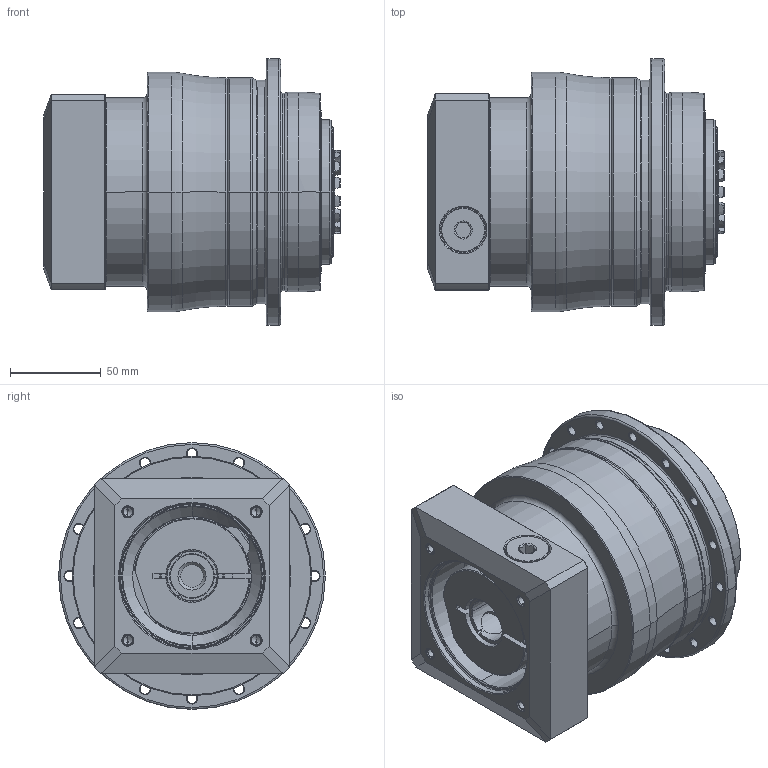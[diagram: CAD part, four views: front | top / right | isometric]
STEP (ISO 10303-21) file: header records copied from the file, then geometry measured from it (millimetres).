
FILE_DESCRIPTION((''),'2;1');
FILE_NAME('APC110_2ST_24-P0409510201_ASM','2018-06-14T',('d01226'),(''),'PRO/ENGINEER BY PARAMETRIC TECHNOLOGY CORPORATION, 2008410','PRO/ENGINEER BY PARAMETRIC TECHNOLOGY CORPORATION, 2008410','');
FILE_SCHEMA(('CONFIG_CONTROL_DESIGN'));
Length unit declared in the file: millimetre
Products named in the file (9): P0278400003; P03594C0103; P1317410201; P0503500010; P0912353001; P1211400001; P0409510201; 21711418017; APC110_2ST_24-P0409510201_ASM
Assembly tree (8 placements, depth 2):
  APC110_2ST_24-P0409510201_ASM
    P0278400003
    P03594C0103
    P1317410201
    P0503500010
    P0912353001
    P1211400001
    P0409510201
    21711418017
Bounding box: 163.4 x 147 x 147 mm (x, y, z)
Volume: 1655223 mm3; surface area: 240152.1 mm2
Topology: 9 solids, 20 shells, 618 faces, 1486 edges, 909 vertices
Faces by surface type: cylinder 197, cone 189, plane 120, torus 98, bspline 14
Entity records: 23613 total; most frequent: CARTESIAN_POINT 8863, DIRECTION 3289, ORIENTED_EDGE 2894, EDGE_CURVE 1468, AXIS2_PLACEMENT_3D 1429, VERTEX_POINT 909, CIRCLE 798, EDGE_LOOP 705
